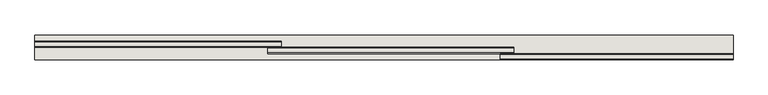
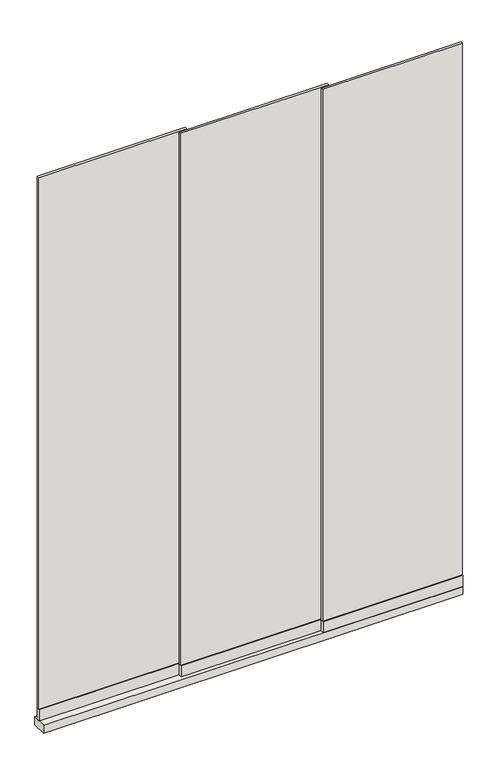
"""IFC4 building model written with IfcOpenShell, lengths in millimetres: wall geometry, Renson_Amani_Glass_Sliding_Panel : Renson_Amani_Glass_Sliding_Panel."""

from ifc_helpers import new_model, si_unit, frame, origin, origin_with_axes, place, context, project, spatial, polyline, outline, extrude, source, transform, mapped, element, save


def wall_afea243a(model_context):
    return source(origin(), model_context, "Body", "SweptSolid", [
        extrude(outline(polyline([(750.0, 0.0), (-1050.0, 0.0), (-1050.0, 64.0), (750.0, 64.0), (750.0, 0.0)])), origin_with_axes(), (0.0, 0.0, 1.0), 35.0),
        extrude(outline(polyline([(750.0, 3.0), (150.0, 3.0), (150.0, 13.0), (750.0, 13.0), (750.0, 3.0)])), frame((0.0, 0.0, 86.0), z_axis=(0.0, 0.0, 1.0), x_axis=(1.0, 0.0, 0.0)), (0.0, 0.0, 1.0), 2414.0),
        extrude(outline(polyline([(185.0, 19.0), (-450.0, 19.0), (-450.0, 29.0), (185.0, 29.0), (185.0, 19.0)])), frame((0.0, 0.0, 86.0), z_axis=(0.0, 0.0, 1.0), x_axis=(1.0, 0.0, 0.0)), (0.0, 0.0, 1.0), 2414.0),
        extrude(outline(polyline([(-415.0, 35.0), (-1050.0, 35.0), (-1050.0, 45.0), (-415.0, 45.0), (-415.0, 35.0)])), frame((0.0, 0.0, 86.0), z_axis=(0.0, 0.0, 1.0), x_axis=(1.0, 0.0, 0.0)), (0.0, 0.0, 1.0), 2414.0),
        extrude(outline(polyline([(750.0, 0.0), (150.0, 0.0), (150.0, 16.0), (750.0, 16.0), (750.0, 0.0)])), frame((0.0, 0.0, 35.0), z_axis=(0.0, 0.0, 1.0), x_axis=(1.0, 0.0, 0.0)), (0.0, 0.0, 1.0), 51.0),
        extrude(outline(polyline([(185.0, 16.0), (-450.0, 16.0), (-450.0, 32.0), (185.0, 32.0), (185.0, 16.0)])), frame((0.0, 0.0, 35.0), z_axis=(0.0, 0.0, 1.0), x_axis=(1.0, 0.0, 0.0)), (0.0, 0.0, 1.0), 51.0),
        extrude(outline(polyline([(-415.0, 32.0), (-1050.0, 32.0), (-1050.0, 48.0), (-415.0, 48.0), (-415.0, 32.0)])), frame((0.0, 0.0, 35.0), z_axis=(0.0, 0.0, 1.0), x_axis=(1.0, 0.0, 0.0)), (0.0, 0.0, 1.0), 51.0),
    ])


if __name__ == "__main__":
    model = new_model("IFC4")
    model_context = context("Model", 3, world=origin())
    ifc_project = project(units=[si_unit("LENGTHUNIT", "METRE", prefix="MILLI")], contexts=[model_context])
    site = spatial("IfcSite", under=ifc_project)
    building = spatial("IfcBuilding", under=site)
    placement = place(None, origin())
    wall_shape = wall_afea243a(model_context)
    element("IfcWall", 1, ObjectType="Renson_Amani_Glass_Sliding_Panel : Renson_Amani_Glass_Sliding_Panel", at=placement, inside=building, context=model_context, shape_type="MappedRepresentation", body=[
        mapped(wall_shape, transform((0.0, 0.0, 0.0), x_axis=(1.0, 0.0, 0.0), y_axis=(0.0, 1.0, 0.0), z_axis=(0.0, 0.0, 1.0))),
    ])
    save(model, "model.ifc")
